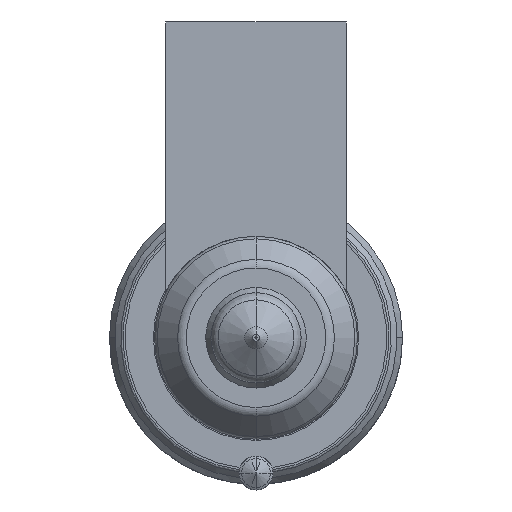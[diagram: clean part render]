
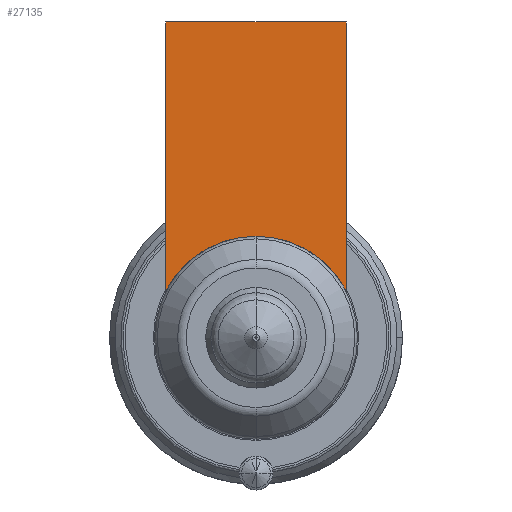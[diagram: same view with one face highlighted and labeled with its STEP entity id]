
A CAD part, front view. The second image highlights one B-rep face of the part: STEP entity #27135.
In plain terms, the highlighted planar face has unit normal (0, -1, 0).
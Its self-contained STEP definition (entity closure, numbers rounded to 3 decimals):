
#26322=DIRECTION('',(1.,0.,0.));
#26323=VECTOR('',#26322,16.);
#26324=CARTESIAN_POINT('',(-8.,-54.,28.));
#26325=LINE('',#26324,#26323);
#26330=CARTESIAN_POINT('',(0.,-54.,0.));
#26331=DIRECTION('',(0.,-1.,0.));
#26332=DIRECTION('',(0.889,0.,0.458));
#26333=AXIS2_PLACEMENT_3D('',#26330,#26331,#26332);
#26338=CARTESIAN_POINT('',(0.,-54.,0.));
#26339=DIRECTION('',(0.,-1.,0.));
#26340=DIRECTION('',(0.,0.,1.));
#26341=AXIS2_PLACEMENT_3D('',#26338,#26339,#26340);
#26367=DIRECTION('',(0.,0.,-1.));
#26368=VECTOR('',#26367,23.877);
#26369=CARTESIAN_POINT('',(-8.,-54.,28.));
#26370=LINE('',#26369,#26368);
#26987=DIRECTION('',(0.,0.,-1.));
#26988=VECTOR('',#26987,23.877);
#26989=CARTESIAN_POINT('',(8.,-54.,28.));
#26990=LINE('',#26989,#26988);
#27040=CARTESIAN_POINT('',(-8.,-54.,28.));
#27041=VERTEX_POINT('',#27040);
#27046=CARTESIAN_POINT('',(8.,-54.,28.));
#27047=VERTEX_POINT('',#27046);
#27050=CARTESIAN_POINT('',(-8.,-54.,4.123));
#27051=VERTEX_POINT('',#27050);
#27054=CARTESIAN_POINT('',(8.,-54.,4.123));
#27055=VERTEX_POINT('',#27054);
#27116=CARTESIAN_POINT('',(0.,-54.,9.));
#27117=VERTEX_POINT('',#27116);
#27118=CARTESIAN_POINT('',(0.,-54.,9.));
#27119=DIRECTION('',(0.,1.,0.));
#27120=DIRECTION('',(0.,0.,-1.));
#27121=AXIS2_PLACEMENT_3D('',#27118,#27119,#27120);
#27122=PLANE('',#27121);
#27124=ORIENTED_EDGE('',*,*,#27123,.F.);
#27126=ORIENTED_EDGE('',*,*,#27125,.T.);
#27128=ORIENTED_EDGE('',*,*,#27127,.T.);
#27130=ORIENTED_EDGE('',*,*,#27129,.T.);
#27132=ORIENTED_EDGE('',*,*,#27131,.T.);
#27133=EDGE_LOOP('',(#27124,#27126,#27128,#27130,#27132));
#27134=FACE_OUTER_BOUND('',#27133,.F.);
#27135=ADVANCED_FACE('',(#27134),#27122,.F.);
#26334=CIRCLE('',#26333,9.);
#26342=CIRCLE('',#26341,9.);
#27123=EDGE_CURVE('',#27041,#27051,#26370,.T.);
#27125=EDGE_CURVE('',#27041,#27047,#26325,.T.);
#27127=EDGE_CURVE('',#27047,#27055,#26990,.T.);
#27129=EDGE_CURVE('',#27055,#27117,#26334,.T.);
#27131=EDGE_CURVE('',#27117,#27051,#26342,.T.);
